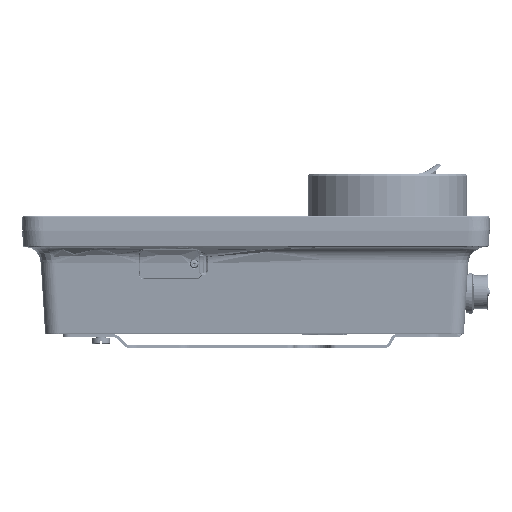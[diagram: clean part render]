
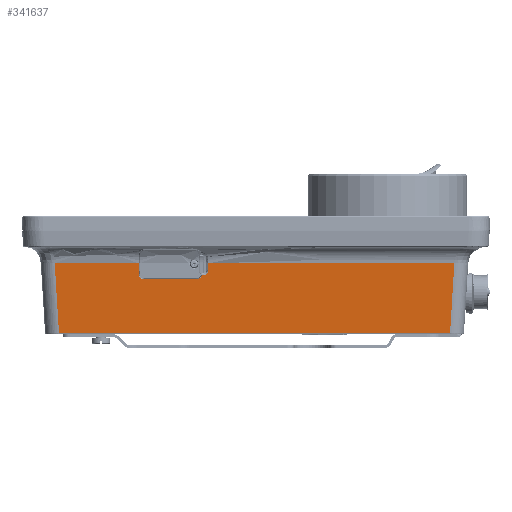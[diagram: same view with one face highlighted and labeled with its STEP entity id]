
A CAD part, left-side view. The second image highlights one B-rep face of the part: STEP entity #341637.
In plain terms, the highlighted planar face has unit normal (-0.998, 0, -0.065).
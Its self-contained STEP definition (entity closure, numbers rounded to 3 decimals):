
#266708=CARTESIAN_POINT('',(-80.156,-142.537,
8.5));
#267347=DIRECTION('',(0.,1.,0.));
#267348=VECTOR('',#267347,177.012);
#267349=CARTESIAN_POINT('',(-80.156,-142.537,
8.5));
#267350=LINE('',#267349,#267348);
#267374=DIRECTION('',(0.,1.,0.));
#267375=VECTOR('',#267374,60.285);
#267376=CARTESIAN_POINT('',(-80.156,84.252,
8.5));
#267377=LINE('',#267376,#267375);
#267396=DIRECTION('',(0.064,0.061,-0.996));
#267397=VECTOR('',#267396,50.262);
#267398=CARTESIAN_POINT('',(-80.156,-142.537,
8.5));
#267399=LINE('',#267398,#267397);
#267400=DIRECTION('',(-0.064,0.061,0.996));
#267401=VECTOR('',#267400,50.262);
#267402=CARTESIAN_POINT('',(-76.919,141.475,
-41.565));
#267403=LINE('',#267402,#267401);
#267404=DIRECTION('',(-0.065,0.001,0.998));
#267405=VECTOR('',#267404,7.009);
#267406=CARTESIAN_POINT('',(-79.671,84.242,
0.987));
#267407=LINE('',#267406,#267405);
#267408=CARTESIAN_POINT('',(-80.123,84.252,
7.981));
#267749=DIRECTION('',(0.065,-0.001,-0.998));
#267750=VECTOR('',#267749,5.579);
#267751=CARTESIAN_POINT('',(-80.156,34.475,
8.5));
#267752=LINE('',#267751,#267750);
#267763=CARTESIAN_POINT('',(-79.796,34.471,
2.933));
#267764=CARTESIAN_POINT('',(-79.779,34.473,
2.664));
#267765=CARTESIAN_POINT('',(-79.746,34.552,
2.153));
#267766=CARTESIAN_POINT('',(-79.7,34.915,
1.438));
#267767=CARTESIAN_POINT('',(-79.663,35.478,
0.875));
#267768=CARTESIAN_POINT('',(-79.64,36.194,
0.513));
#267769=CARTESIAN_POINT('',(-79.635,36.704,
0.433));
#267770=CARTESIAN_POINT('',(-79.635,36.973,
0.432));
#267776=DIRECTION('',(0.,1.,0.));
#267777=VECTOR('',#267776,1.827);
#267778=CARTESIAN_POINT('',(-79.635,36.973,
0.432));
#267779=LINE('',#267778,#267777);
#267836=CARTESIAN_POINT('',(-79.635,38.8,
0.432));
#267837=CARTESIAN_POINT('',(-79.612,38.854,
0.08));
#267838=CARTESIAN_POINT('',(-79.569,39.051,
-0.583));
#267839=CARTESIAN_POINT('',(-79.51,39.64,
-1.501));
#267840=CARTESIAN_POINT('',(-79.464,40.459,
-2.206));
#267841=CARTESIAN_POINT('',(-79.435,41.457,
-2.653));
#267842=CARTESIAN_POINT('',(-79.429,42.143,
-2.749));
#267843=CARTESIAN_POINT('',(-79.429,42.5,
-2.75));
#267850=DIRECTION('',(0.,1.,0.));
#267851=VECTOR('',#267850,38.);
#267852=CARTESIAN_POINT('',(-79.429,42.5,
-2.75));
#267853=LINE('',#267852,#267851);
#267863=CARTESIAN_POINT('',(-79.429,80.5,
-2.75));
#267864=CARTESIAN_POINT('',(-79.429,80.887,
-2.751));
#267865=CARTESIAN_POINT('',(-79.436,81.632,
-2.637));
#267866=CARTESIAN_POINT('',(-79.471,82.729,
-2.094));
#267867=CARTESIAN_POINT('',(-79.526,83.581,
-1.245));
#267868=CARTESIAN_POINT('',(-79.597,84.128,
-0.147));
#267869=CARTESIAN_POINT('',(-79.645,84.243,
0.598));
#267870=CARTESIAN_POINT('',(-79.671,84.242,
0.987));
#271599=DIRECTION('',(0.,-1.,0.));
#271600=VECTOR('',#271599,280.95);
#271601=CARTESIAN_POINT('',(-76.919,141.475,
-41.565));
#271602=LINE('',#271601,#271600);
#299991=DIRECTION('',(-0.065,0.,0.998));
#299992=VECTOR('',#299991,0.52);
#299993=CARTESIAN_POINT('',(-80.123,84.252,
7.981));
#299994=LINE('',#299993,#299992);
#303570=CARTESIAN_POINT('',(-76.919,141.475,
-41.565));
#303571=CARTESIAN_POINT('',(-76.919,-139.475,
-41.565));
#303572=VERTEX_POINT('',#303570);
#303573=VERTEX_POINT('',#303571);
#312347=CARTESIAN_POINT('',(-80.156,84.252,
8.5));
#312348=VERTEX_POINT('',#312347);
#312349=VERTEX_POINT('',#267408);
#312381=VERTEX_POINT('',#266708);
#312382=CARTESIAN_POINT('',(-80.156,34.475,
8.5));
#312383=VERTEX_POINT('',#312382);
#312385=CARTESIAN_POINT('',(-80.156,144.537,
8.5));
#312386=VERTEX_POINT('',#312385);
#312398=CARTESIAN_POINT('',(-79.671,84.242,
0.987));
#312399=VERTEX_POINT('',#312398);
#312400=VERTEX_POINT('',#267863);
#312401=CARTESIAN_POINT('',(-79.429,42.5,
-2.75));
#312402=VERTEX_POINT('',#312401);
#312403=VERTEX_POINT('',#267836);
#312404=CARTESIAN_POINT('',(-79.635,36.973,
0.432));
#312405=VERTEX_POINT('',#312404);
#312406=VERTEX_POINT('',#267763);
#341606=CARTESIAN_POINT('',(-76.919,141.473,
-41.561));
#341607=DIRECTION('',(0.998,0.,0.065));
#341608=DIRECTION('',(0.065,0.,-0.998));
#341609=AXIS2_PLACEMENT_3D('',#341606,#341607,#341608);
#341610=PLANE('',#341609);
#341612=ORIENTED_EDGE('',*,*,#341611,.F.);
#341614=ORIENTED_EDGE('',*,*,#341613,.F.);
#341616=ORIENTED_EDGE('',*,*,#341615,.F.);
#341618=ORIENTED_EDGE('',*,*,#341617,.F.);
#341620=ORIENTED_EDGE('',*,*,#341619,.F.);
#341622=ORIENTED_EDGE('',*,*,#341621,.F.);
#341624=ORIENTED_EDGE('',*,*,#341623,.F.);
#341625=ORIENTED_EDGE('',*,*,#341582,.F.);
#341627=ORIENTED_EDGE('',*,*,#341626,.T.);
#341629=ORIENTED_EDGE('',*,*,#341628,.F.);
#341631=ORIENTED_EDGE('',*,*,#341630,.T.);
#341632=ORIENTED_EDGE('',*,*,#341598,.F.);
#341634=ORIENTED_EDGE('',*,*,#341633,.F.);
#341635=EDGE_LOOP('',(#341612,#341614,#341616,#341618,#341620,#341622,#341624,
#341625,#341627,#341629,#341631,#341632,#341634));
#341636=FACE_OUTER_BOUND('',#341635,.F.);
#341637=ADVANCED_FACE('',(#341636),#341610,.F.);
#267771=B_SPLINE_CURVE_WITH_KNOTS('',3,(#267763,#267764,#267765,#267766,#267767,
#267768,#267769,#267770),.UNSPECIFIED.,.F.,.F.,(4,1,1,1,1,4),(0.,0.2,0.4,
0.6,0.8,1.),.UNSPECIFIED.);
#267844=B_SPLINE_CURVE_WITH_KNOTS('',3,(#267836,#267837,#267838,#267839,#267840,
#267841,#267842,#267843),.UNSPECIFIED.,.F.,.F.,(4,1,1,1,1,4),(0.,0.2,0.4,
0.6,0.8,1.),.UNSPECIFIED.);
#267871=B_SPLINE_CURVE_WITH_KNOTS('',3,(#267863,#267864,#267865,#267866,#267867,
#267868,#267869,#267870),.UNSPECIFIED.,.F.,.F.,(4,1,1,1,1,4),(0.,0.2,0.4,
0.6,0.8,1.),.UNSPECIFIED.);
#341582=EDGE_CURVE('',#312381,#312383,#267350,.T.);
#341598=EDGE_CURVE('',#312348,#312386,#267377,.T.);
#341611=EDGE_CURVE('',#312399,#312349,#267407,.T.);
#341613=EDGE_CURVE('',#312400,#312399,#267871,.T.);
#341615=EDGE_CURVE('',#312402,#312400,#267853,.T.);
#341617=EDGE_CURVE('',#312403,#312402,#267844,.T.);
#341619=EDGE_CURVE('',#312405,#312403,#267779,.T.);
#341621=EDGE_CURVE('',#312406,#312405,#267771,.T.);
#341623=EDGE_CURVE('',#312383,#312406,#267752,.T.);
#341626=EDGE_CURVE('',#312381,#303573,#267399,.T.);
#341628=EDGE_CURVE('',#303572,#303573,#271602,.T.);
#341630=EDGE_CURVE('',#303572,#312386,#267403,.T.);
#341633=EDGE_CURVE('',#312349,#312348,#299994,.T.);
